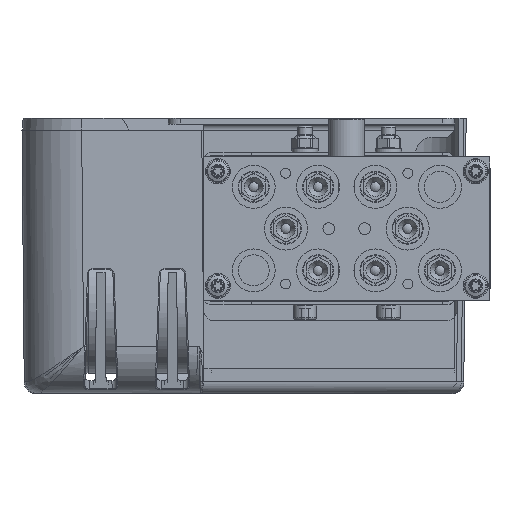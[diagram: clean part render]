
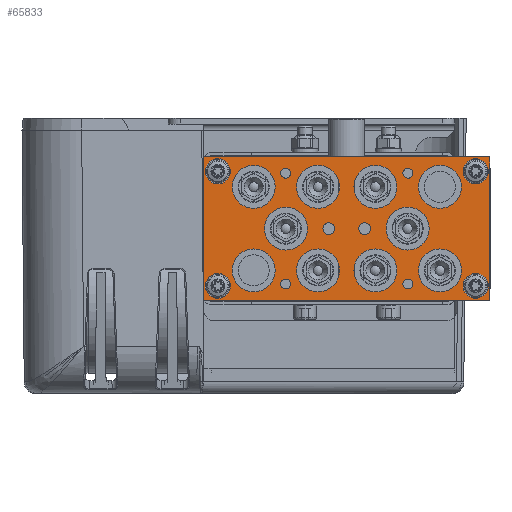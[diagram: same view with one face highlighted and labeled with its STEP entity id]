
A CAD part, left-side view. The second image highlights one B-rep face of the part: STEP entity #65833.
In plain terms, the highlighted planar face has unit normal (-1, 0, 0) as drawn and (0, 0, 1) by its records, which use the part's own axes.
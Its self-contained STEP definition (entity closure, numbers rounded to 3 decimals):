
#5937=LINE('',#113444,#8668);
#5941=LINE('',#113455,#8672);
#5945=LINE('',#113600,#8676);
#5946=LINE('',#113601,#8677);
#8668=VECTOR('',#76851,1000.);
#8672=VECTOR('',#76859,1000.);
#8676=VECTOR('',#77019,1000.);
#8677=VECTOR('',#77020,1000.);
#10800=PLANE('',#69785);
#16237=ORIENTED_EDGE('',*,*,#29913,.F.);
#16238=ORIENTED_EDGE('',*,*,#29914,.F.);
#16239=ORIENTED_EDGE('',*,*,#29915,.F.);
#16240=ORIENTED_EDGE('',*,*,#29916,.F.);
#16241=ORIENTED_EDGE('',*,*,#29917,.F.);
#16242=ORIENTED_EDGE('',*,*,#29918,.F.);
#16243=ORIENTED_EDGE('',*,*,#29919,.T.);
#16244=ORIENTED_EDGE('',*,*,#29920,.T.);
#16245=ORIENTED_EDGE('',*,*,#29921,.T.);
#16246=ORIENTED_EDGE('',*,*,#29922,.T.);
#16247=ORIENTED_EDGE('',*,*,#29923,.T.);
#16248=ORIENTED_EDGE('',*,*,#29924,.T.);
#16249=ORIENTED_EDGE('',*,*,#29925,.T.);
#16250=ORIENTED_EDGE('',*,*,#29855,.T.);
#16251=ORIENTED_EDGE('',*,*,#29926,.T.);
#16252=ORIENTED_EDGE('',*,*,#29860,.T.);
#16253=ORIENTED_EDGE('',*,*,#29927,.T.);
#16254=ORIENTED_EDGE('',*,*,#29928,.T.);
#16255=ORIENTED_EDGE('',*,*,#29929,.T.);
#16256=ORIENTED_EDGE('',*,*,#29930,.T.);
#16257=ORIENTED_EDGE('',*,*,#29931,.T.);
#16258=ORIENTED_EDGE('',*,*,#29932,.T.);
#16259=ORIENTED_EDGE('',*,*,#29933,.T.);
#16260=ORIENTED_EDGE('',*,*,#29934,.T.);
#29855=EDGE_CURVE('',#36978,#36977,#5937,.T.);
#29860=EDGE_CURVE('',#36983,#36982,#5941,.T.);
#29913=EDGE_CURVE('',#37033,#37033,#41497,.T.);
#29914=EDGE_CURVE('',#37034,#37034,#41498,.T.);
#29915=EDGE_CURVE('',#37035,#37035,#41499,.T.);
#29916=EDGE_CURVE('',#37036,#37036,#41500,.T.);
#29917=EDGE_CURVE('',#37037,#37037,#41501,.T.);
#29918=EDGE_CURVE('',#37038,#37038,#41502,.T.);
#29919=EDGE_CURVE('',#37039,#37039,#41503,.T.);
#29920=EDGE_CURVE('',#37040,#37040,#41504,.T.);
#29921=EDGE_CURVE('',#37041,#37041,#41505,.T.);
#29922=EDGE_CURVE('',#37042,#37042,#41506,.T.);
#29923=EDGE_CURVE('',#37043,#37043,#41507,.T.);
#29924=EDGE_CURVE('',#37044,#37044,#41508,.T.);
#29925=EDGE_CURVE('',#37045,#37045,#41509,.T.);
#29926=EDGE_CURVE('',#36977,#36983,#5945,.T.);
#29927=EDGE_CURVE('',#36982,#36978,#5946,.T.);
#29928=EDGE_CURVE('',#37046,#37046,#41510,.T.);
#29929=EDGE_CURVE('',#37047,#37047,#41511,.T.);
#29930=EDGE_CURVE('',#37048,#37048,#41512,.T.);
#29931=EDGE_CURVE('',#37049,#37049,#41513,.T.);
#29932=EDGE_CURVE('',#37050,#37050,#41514,.T.);
#29933=EDGE_CURVE('',#37051,#37051,#41515,.T.);
#29934=EDGE_CURVE('',#37052,#37052,#41516,.T.);
#36977=VERTEX_POINT('',#113443);
#36978=VERTEX_POINT('',#113445);
#36982=VERTEX_POINT('',#113454);
#36983=VERTEX_POINT('',#113456);
#37033=VERTEX_POINT('',#113575);
#37034=VERTEX_POINT('',#113577);
#37035=VERTEX_POINT('',#113579);
#37036=VERTEX_POINT('',#113581);
#37037=VERTEX_POINT('',#113583);
#37038=VERTEX_POINT('',#113585);
#37039=VERTEX_POINT('',#113587);
#37040=VERTEX_POINT('',#113589);
#37041=VERTEX_POINT('',#113591);
#37042=VERTEX_POINT('',#113593);
#37043=VERTEX_POINT('',#113595);
#37044=VERTEX_POINT('',#113597);
#37045=VERTEX_POINT('',#113599);
#37046=VERTEX_POINT('',#113603);
#37047=VERTEX_POINT('',#113605);
#37048=VERTEX_POINT('',#113607);
#37049=VERTEX_POINT('',#113609);
#37050=VERTEX_POINT('',#113611);
#37051=VERTEX_POINT('',#113613);
#37052=VERTEX_POINT('',#113615);
#41497=CIRCLE('',#69786,2.067);
#41498=CIRCLE('',#69787,2.067);
#41499=CIRCLE('',#69788,2.067);
#41500=CIRCLE('',#69789,2.067);
#41501=CIRCLE('',#69790,2.459);
#41502=CIRCLE('',#69791,2.459);
#41503=CIRCLE('',#69792,9.);
#41504=CIRCLE('',#69793,9.);
#41505=CIRCLE('',#69794,9.);
#41506=CIRCLE('',#69795,9.);
#41507=CIRCLE('',#69796,9.);
#41508=CIRCLE('',#69797,5.25);
#41509=CIRCLE('',#69798,5.25);
#41510=CIRCLE('',#69799,5.25);
#41511=CIRCLE('',#69800,9.);
#41512=CIRCLE('',#69801,9.);
#41513=CIRCLE('',#69802,9.);
#41514=CIRCLE('',#69803,9.);
#41515=CIRCLE('',#69804,9.);
#41516=CIRCLE('',#69805,5.25);
#44038=EDGE_LOOP('',(#16237));
#44039=EDGE_LOOP('',(#16238));
#44040=EDGE_LOOP('',(#16239));
#44041=EDGE_LOOP('',(#16240));
#44042=EDGE_LOOP('',(#16241));
#44043=EDGE_LOOP('',(#16242));
#44044=EDGE_LOOP('',(#16243));
#44045=EDGE_LOOP('',(#16244));
#44046=EDGE_LOOP('',(#16245));
#44047=EDGE_LOOP('',(#16246));
#44048=EDGE_LOOP('',(#16247));
#44049=EDGE_LOOP('',(#16248));
#44050=EDGE_LOOP('',(#16249));
#44051=EDGE_LOOP('',(#16250,#16251,#16252,#16253));
#44052=EDGE_LOOP('',(#16254));
#44053=EDGE_LOOP('',(#16255));
#44054=EDGE_LOOP('',(#16256));
#44055=EDGE_LOOP('',(#16257));
#44056=EDGE_LOOP('',(#16258));
#44057=EDGE_LOOP('',(#16259));
#44058=EDGE_LOOP('',(#16260));
#48056=FACE_BOUND('',#44038,.T.);
#48057=FACE_BOUND('',#44039,.T.);
#48058=FACE_BOUND('',#44040,.T.);
#48059=FACE_BOUND('',#44041,.T.);
#48060=FACE_BOUND('',#44042,.T.);
#48061=FACE_BOUND('',#44043,.T.);
#48062=FACE_BOUND('',#44044,.T.);
#48063=FACE_BOUND('',#44045,.T.);
#48064=FACE_BOUND('',#44046,.T.);
#48065=FACE_BOUND('',#44047,.T.);
#48066=FACE_BOUND('',#44048,.T.);
#48067=FACE_BOUND('',#44049,.T.);
#48068=FACE_BOUND('',#44050,.T.);
#48069=FACE_BOUND('',#44051,.T.);
#48070=FACE_BOUND('',#44052,.T.);
#48071=FACE_BOUND('',#44053,.T.);
#48072=FACE_BOUND('',#44054,.T.);
#48073=FACE_BOUND('',#44055,.T.);
#48074=FACE_BOUND('',#44056,.T.);
#48075=FACE_BOUND('',#44057,.T.);
#48076=FACE_BOUND('',#44058,.T.);
#65833=ADVANCED_FACE('',(#48056,#48057,#48058,#48059,#48060,#48061,#48062,
#48063,#48064,#48065,#48066,#48067,#48068,#48069,#48070,#48071,#48072,#48073,
#48074,#48075,#48076),#10800,.T.);
#69785=AXIS2_PLACEMENT_3D('',#113573,#76991,#76992);
#69786=AXIS2_PLACEMENT_3D('',#113574,#76993,#76994);
#69787=AXIS2_PLACEMENT_3D('',#113576,#76995,#76996);
#69788=AXIS2_PLACEMENT_3D('',#113578,#76997,#76998);
#69789=AXIS2_PLACEMENT_3D('',#113580,#76999,#77000);
#69790=AXIS2_PLACEMENT_3D('',#113582,#77001,#77002);
#69791=AXIS2_PLACEMENT_3D('',#113584,#77003,#77004);
#69792=AXIS2_PLACEMENT_3D('',#113586,#77005,#77006);
#69793=AXIS2_PLACEMENT_3D('',#113588,#77007,#77008);
#69794=AXIS2_PLACEMENT_3D('',#113590,#77009,#77010);
#69795=AXIS2_PLACEMENT_3D('',#113592,#77011,#77012);
#69796=AXIS2_PLACEMENT_3D('',#113594,#77013,#77014);
#69797=AXIS2_PLACEMENT_3D('',#113596,#77015,#77016);
#69798=AXIS2_PLACEMENT_3D('',#113598,#77017,#77018);
#69799=AXIS2_PLACEMENT_3D('',#113602,#77021,#77022);
#69800=AXIS2_PLACEMENT_3D('',#113604,#77023,#77024);
#69801=AXIS2_PLACEMENT_3D('',#113606,#77025,#77026);
#69802=AXIS2_PLACEMENT_3D('',#113608,#77027,#77028);
#69803=AXIS2_PLACEMENT_3D('',#113610,#77029,#77030);
#69804=AXIS2_PLACEMENT_3D('',#113612,#77031,#77032);
#69805=AXIS2_PLACEMENT_3D('',#113614,#77033,#77034);
#76851=DIRECTION('',(-1.,0.,0.));
#76859=DIRECTION('',(1.,0.,0.));
#76991=DIRECTION('',(0.,0.,1.));
#76992=DIRECTION('',(1.,0.,0.));
#76993=DIRECTION('',(0.,0.,1.));
#76994=DIRECTION('',(1.,0.,0.));
#76995=DIRECTION('',(0.,0.,1.));
#76996=DIRECTION('',(1.,0.,0.));
#76997=DIRECTION('',(0.,0.,1.));
#76998=DIRECTION('',(1.,0.,0.));
#76999=DIRECTION('',(0.,0.,1.));
#77000=DIRECTION('',(1.,0.,0.));
#77001=DIRECTION('',(0.,0.,1.));
#77002=DIRECTION('',(1.,0.,0.));
#77003=DIRECTION('',(0.,0.,1.));
#77004=DIRECTION('',(1.,0.,0.));
#77005=DIRECTION('',(0.,0.,-1.));
#77006=DIRECTION('',(1.,0.,0.));
#77007=DIRECTION('',(0.,0.,-1.));
#77008=DIRECTION('',(1.,0.,0.));
#77009=DIRECTION('',(0.,0.,-1.));
#77010=DIRECTION('',(1.,0.,0.));
#77011=DIRECTION('',(0.,0.,-1.));
#77012=DIRECTION('',(1.,0.,0.));
#77013=DIRECTION('',(0.,0.,-1.));
#77014=DIRECTION('',(1.,0.,0.));
#77015=DIRECTION('',(0.,0.,-1.));
#77016=DIRECTION('',(1.,0.,0.));
#77017=DIRECTION('',(0.,0.,-1.));
#77018=DIRECTION('',(1.,0.,0.));
#77019=DIRECTION('',(0.,-1.,0.));
#77020=DIRECTION('',(0.,1.,0.));
#77021=DIRECTION('',(0.,0.,-1.));
#77022=DIRECTION('',(1.,0.,0.));
#77023=DIRECTION('',(0.,0.,-1.));
#77024=DIRECTION('',(1.,0.,0.));
#77025=DIRECTION('',(0.,0.,-1.));
#77026=DIRECTION('',(1.,0.,0.));
#77027=DIRECTION('',(0.,0.,-1.));
#77028=DIRECTION('',(1.,0.,0.));
#77029=DIRECTION('',(0.,0.,-1.));
#77030=DIRECTION('',(1.,0.,0.));
#77031=DIRECTION('',(0.,0.,-1.));
#77032=DIRECTION('',(1.,0.,0.));
#77033=DIRECTION('',(0.,0.,-1.));
#77034=DIRECTION('',(1.,0.,0.));
#113443=CARTESIAN_POINT('',(-60.,30.,15.));
#113444=CARTESIAN_POINT('',(60.,30.,15.));
#113445=CARTESIAN_POINT('',(60.,30.,15.));
#113454=CARTESIAN_POINT('',(60.,-30.,15.));
#113455=CARTESIAN_POINT('',(-60.,-30.,15.));
#113456=CARTESIAN_POINT('',(-60.,-30.,15.));
#113573=CARTESIAN_POINT('',(-60.,30.,15.));
#113574=CARTESIAN_POINT('',(25.6,23.2,15.));
#113575=CARTESIAN_POINT('',(27.667,23.2,15.));
#113576=CARTESIAN_POINT('',(-25.6,23.2,15.));
#113577=CARTESIAN_POINT('',(-23.533,23.2,15.));
#113578=CARTESIAN_POINT('',(-25.6,-23.2,15.));
#113579=CARTESIAN_POINT('',(-23.533,-23.2,15.));
#113580=CARTESIAN_POINT('',(25.6,-23.2,15.));
#113581=CARTESIAN_POINT('',(27.667,-23.2,15.));
#113582=CARTESIAN_POINT('',(7.5,0.,15.));
#113583=CARTESIAN_POINT('',(9.959,0.,15.));
#113584=CARTESIAN_POINT('',(-7.5,0.,15.));
#113585=CARTESIAN_POINT('',(-5.041,0.,15.));
#113586=CARTESIAN_POINT('',(25.5,0.,15.));
#113587=CARTESIAN_POINT('',(34.5,0.,15.));
#113588=CARTESIAN_POINT('',(39.,17.5,15.));
#113589=CARTESIAN_POINT('',(48.,17.5,15.));
#113590=CARTESIAN_POINT('',(-39.,-17.5,15.));
#113591=CARTESIAN_POINT('',(-30.,-17.5,15.));
#113592=CARTESIAN_POINT('',(-12.,-17.5,15.));
#113593=CARTESIAN_POINT('',(-3.,-17.5,15.));
#113594=CARTESIAN_POINT('',(12.,17.5,15.));
#113595=CARTESIAN_POINT('',(21.,17.5,15.));
#113596=CARTESIAN_POINT('',(-54.,-24.,15.));
#113597=CARTESIAN_POINT('',(-48.75,-24.,15.));
#113598=CARTESIAN_POINT('',(54.,24.,15.));
#113599=CARTESIAN_POINT('',(59.25,24.,15.));
#113600=CARTESIAN_POINT('',(-60.,30.,15.));
#113601=CARTESIAN_POINT('',(60.,-30.,15.));
#113602=CARTESIAN_POINT('',(54.,-24.,15.));
#113603=CARTESIAN_POINT('',(59.25,-24.,15.));
#113604=CARTESIAN_POINT('',(-12.,17.5,15.));
#113605=CARTESIAN_POINT('',(-3.,17.5,15.));
#113606=CARTESIAN_POINT('',(12.,-17.5,15.));
#113607=CARTESIAN_POINT('',(21.,-17.5,15.));
#113608=CARTESIAN_POINT('',(-39.,17.5,15.));
#113609=CARTESIAN_POINT('',(-30.,17.5,15.));
#113610=CARTESIAN_POINT('',(39.,-17.5,15.));
#113611=CARTESIAN_POINT('',(48.,-17.5,15.));
#113612=CARTESIAN_POINT('',(-25.5,0.,15.));
#113613=CARTESIAN_POINT('',(-16.5,0.,15.));
#113614=CARTESIAN_POINT('',(-54.,24.,15.));
#113615=CARTESIAN_POINT('',(-48.75,24.,15.));
